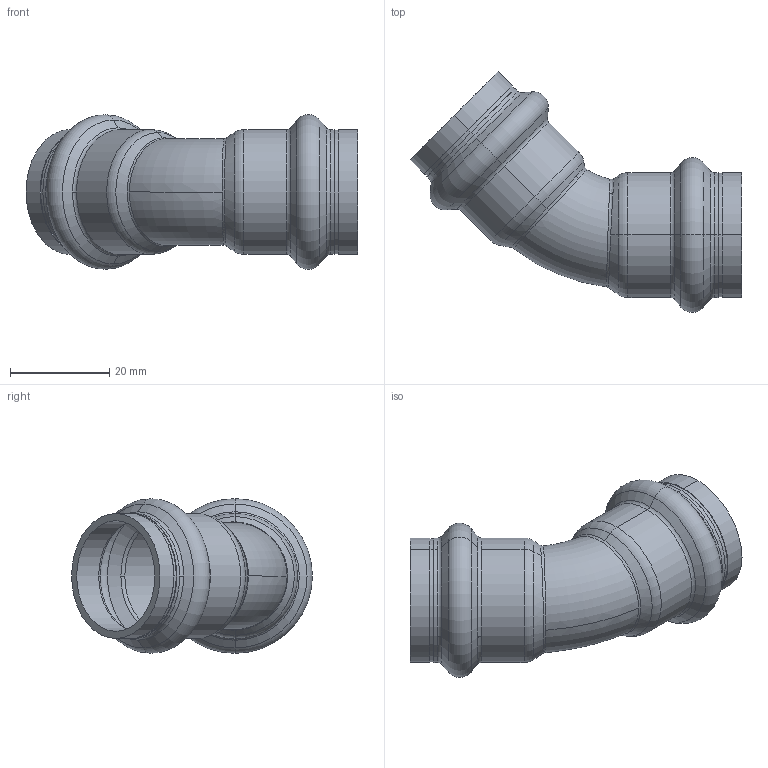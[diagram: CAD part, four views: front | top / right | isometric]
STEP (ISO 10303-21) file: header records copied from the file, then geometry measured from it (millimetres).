
FILE_DESCRIPTION (( 'STEP AP203' ), '1' );
FILE_NAME ('SP5041 Ø22.STEP', '2017-04-24T08:14:47', ( '' ), ( '' ), 'SwSTEP 2.0', 'SolidWorks 2016', '' );
FILE_SCHEMA (( 'CONFIG_CONTROL_DESIGN' ));
Length unit declared in the file: millimetre
Products named in the file (1): SP5041 ﾘ22
Bounding box: 66.95 x 48.55 x 31.2 mm (x, y, z)
Volume: 8054.4 mm3; surface area: 11120 mm2
Topology: 1 solids, 1 shells, 94 faces, 216 edges, 128 vertices
Faces by surface type: torus 36, cylinder 24, cone 24, plane 6, bspline 4
Entity records: 3863 total; most frequent: CARTESIAN_POINT 1605, DIRECTION 518, ORIENTED_EDGE 432, AXIS2_PLACEMENT_3D 235, EDGE_CURVE 216, CIRCLE 144, VERTEX_POINT 128, EDGE_LOOP 100
